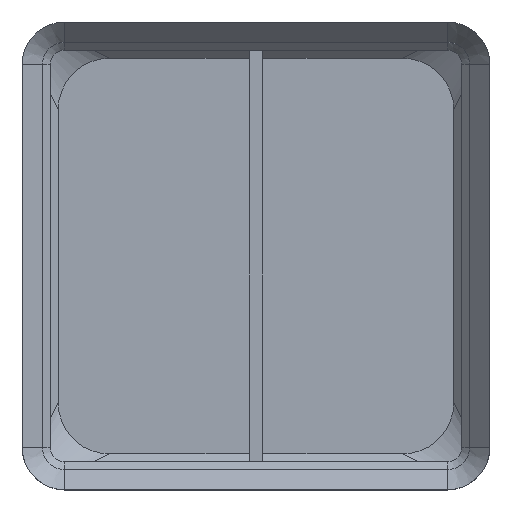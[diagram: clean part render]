
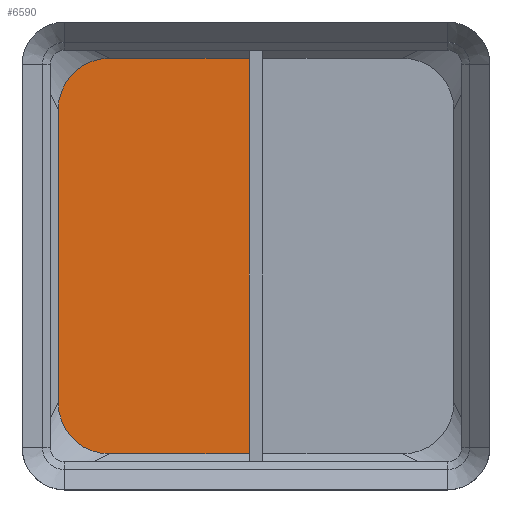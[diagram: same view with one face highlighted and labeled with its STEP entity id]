
A CAD part, top view. The second image highlights one B-rep face of the part: STEP entity #6590.
In plain terms, the highlighted planar face has unit normal (0, 0, 1).
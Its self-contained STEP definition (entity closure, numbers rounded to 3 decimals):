
#32 = PLANE('',#33);
#33 = AXIS2_PLACEMENT_3D('',#34,#35,#36);
#34 = CARTESIAN_POINT('',(-0.6,-19.75,5.65));
#35 = DIRECTION('',(1.,0.,-0.));
#36 = DIRECTION('',(0.,0.,1.));
#83 = VERTEX_POINT('',#84);
#84 = CARTESIAN_POINT('',(-0.6,-17.55,5.75));
#112 = B_SPLINE_SURFACE_WITH_KNOTS('',1,1,(
    (#113,#114)
    ,(#115,#116
    )),.UNSPECIFIED.,.F.,.F.,.F.,(2,2),(2,2),(-17.,17.),(0.,1.),
  .PIECEWISE_BEZIER_KNOTS.);
#113 = CARTESIAN_POINT('',(-13.,-17.55,5.75));
#114 = CARTESIAN_POINT('',(-17.,-19.55,7.75));
#115 = CARTESIAN_POINT('',(13.,-17.55,5.75));
#116 = CARTESIAN_POINT('',(17.,-19.55,7.75));
#131 = EDGE_CURVE('',#83,#132,#134,.T.);
#132 = VERTEX_POINT('',#133);
#133 = CARTESIAN_POINT('',(-0.6,17.55,5.75));
#134 = SURFACE_CURVE('',#135,(#139,#145),.PCURVE_S1.);
#135 = LINE('',#136,#137);
#136 = CARTESIAN_POINT('',(-0.6,-16.375,5.75));
#137 = VECTOR('',#138,1.);
#138 = DIRECTION('',(-0.,1.,0.));
#139 = PCURVE('',#32,#140);
#140 = DEFINITIONAL_REPRESENTATION('',(#141),#144);
#141 = B_SPLINE_CURVE_WITH_KNOTS('',1,(#142,#143),.UNSPECIFIED.,.F.,.F.,
  (2,2),(-1.175,33.925),.PIECEWISE_BEZIER_KNOTS.);
#142 = CARTESIAN_POINT('',(0.1,-2.2));
#143 = CARTESIAN_POINT('',(0.1,-37.3));
#144 = ( GEOMETRIC_REPRESENTATION_CONTEXT(2) 
PARAMETRIC_REPRESENTATION_CONTEXT() REPRESENTATION_CONTEXT('2D SPACE',''
  ) );
#145 = PCURVE('',#146,#151);
#146 = PLANE('',#147);
#147 = AXIS2_PLACEMENT_3D('',#148,#149,#150);
#148 = CARTESIAN_POINT('',(-13.,-13.,5.75));
#149 = DIRECTION('',(0.,0.,1.));
#150 = DIRECTION('',(1.,0.,0.));
#151 = DEFINITIONAL_REPRESENTATION('',(#152),#155);
#152 = B_SPLINE_CURVE_WITH_KNOTS('',1,(#153,#154),.UNSPECIFIED.,.F.,.F.,
  (2,2),(-1.175,33.925),.PIECEWISE_BEZIER_KNOTS.);
#153 = CARTESIAN_POINT('',(12.4,-4.55));
#154 = CARTESIAN_POINT('',(12.4,30.55));
#155 = ( GEOMETRIC_REPRESENTATION_CONTEXT(2) 
PARAMETRIC_REPRESENTATION_CONTEXT() REPRESENTATION_CONTEXT('2D SPACE',''
  ) );
#187 = B_SPLINE_SURFACE_WITH_KNOTS('',1,1,(
    (#188,#189)
    ,(#190,#191
    )),.UNSPECIFIED.,.F.,.F.,.F.,(2,2),(2,2),(-17.,17.),(0.,1.),
  .PIECEWISE_BEZIER_KNOTS.);
#188 = CARTESIAN_POINT('',(13.,17.55,5.75));
#189 = CARTESIAN_POINT('',(17.,19.55,7.75));
#190 = CARTESIAN_POINT('',(-13.,17.55,5.75));
#191 = CARTESIAN_POINT('',(-17.,19.55,7.75));
#6528 = EDGE_CURVE('',#6529,#132,#6531,.T.);
#6529 = VERTEX_POINT('',#6530);
#6530 = CARTESIAN_POINT('',(-13.,17.55,5.75));
#6531 = SURFACE_CURVE('',#6532,(#6536,#6542),.PCURVE_S1.);
#6532 = LINE('',#6533,#6534);
#6533 = CARTESIAN_POINT('',(0.,17.55,5.75));
#6534 = VECTOR('',#6535,1.);
#6535 = DIRECTION('',(1.,0.,0.));
#6536 = PCURVE('',#187,#6537);
#6537 = DEFINITIONAL_REPRESENTATION('',(#6538),#6541);
#6538 = B_SPLINE_CURVE_WITH_KNOTS('',1,(#6539,#6540),.UNSPECIFIED.,.F.,
  .F.,(2,2),(-13.,13.),.PIECEWISE_BEZIER_KNOTS.);
#6539 = CARTESIAN_POINT('',(17.,0.));
#6540 = CARTESIAN_POINT('',(-17.,0.));
#6541 = ( GEOMETRIC_REPRESENTATION_CONTEXT(2) 
PARAMETRIC_REPRESENTATION_CONTEXT() REPRESENTATION_CONTEXT('2D SPACE',''
  ) );
#6542 = PCURVE('',#146,#6543);
#6543 = DEFINITIONAL_REPRESENTATION('',(#6544),#6548);
#6544 = LINE('',#6545,#6546);
#6545 = CARTESIAN_POINT('',(13.,30.55));
#6546 = VECTOR('',#6547,1.);
#6547 = DIRECTION('',(1.,0.));
#6548 = ( GEOMETRIC_REPRESENTATION_CONTEXT(2) 
PARAMETRIC_REPRESENTATION_CONTEXT() REPRESENTATION_CONTEXT('2D SPACE',''
  ) );
#6563 = B_SPLINE_SURFACE_WITH_KNOTS('',8,1,(
    (#6564,#6565)
    ,(#6566,#6567)
    ,(#6568,#6569)
    ,(#6570,#6571)
    ,(#6572,#6573)
    ,(#6574,#6575)
    ,(#6576,#6577)
    ,(#6578,#6579)
    ,(#6580,#6581
    )),.UNSPECIFIED.,.F.,.F.,.F.,(9,9),(2,2),(1.571,
    3.142),(0.,1.),.PIECEWISE_BEZIER_KNOTS.);
#6564 = CARTESIAN_POINT('',(-13.,17.55,5.75));
#6565 = CARTESIAN_POINT('',(-17.,19.55,7.75));
#6566 = CARTESIAN_POINT('',(-13.893,17.55,5.75));
#6567 = CARTESIAN_POINT('',(-17.501,19.55,7.75));
#6568 = CARTESIAN_POINT('',(-14.787,17.35,5.75));
#6569 = CARTESIAN_POINT('',(-18.001,19.438,7.75));
#6570 = CARTESIAN_POINT('',(-15.628,16.949,5.75));
#6571 = CARTESIAN_POINT('',(-18.473,19.213,7.75));
#6572 = CARTESIAN_POINT('',(-16.364,16.364,5.75));
#6573 = CARTESIAN_POINT('',(-18.885,18.885,7.75));
#6574 = CARTESIAN_POINT('',(-16.949,15.628,5.75));
#6575 = CARTESIAN_POINT('',(-19.213,18.473,7.75));
#6576 = CARTESIAN_POINT('',(-17.35,14.787,5.75));
#6577 = CARTESIAN_POINT('',(-19.438,18.001,7.75));
#6578 = CARTESIAN_POINT('',(-17.55,13.893,5.75));
#6579 = CARTESIAN_POINT('',(-19.55,17.501,7.75));
#6580 = CARTESIAN_POINT('',(-17.55,13.,5.75));
#6581 = CARTESIAN_POINT('',(-19.55,17.,7.75));
#6590 = ADVANCED_FACE('',(#6591),#146,.T.);
#6591 = FACE_BOUND('',#6592,.T.);
#6592 = EDGE_LOOP('',(#6593,#6622,#6665,#6685,#6686,#6687));
#6593 = ORIENTED_EDGE('',*,*,#6594,.F.);
#6594 = EDGE_CURVE('',#6595,#6597,#6599,.T.);
#6595 = VERTEX_POINT('',#6596);
#6596 = CARTESIAN_POINT('',(-17.55,-13.,5.75));
#6597 = VERTEX_POINT('',#6598);
#6598 = CARTESIAN_POINT('',(-17.55,13.,5.75));
#6599 = SURFACE_CURVE('',#6600,(#6604,#6611),.PCURVE_S1.);
#6600 = LINE('',#6601,#6602);
#6601 = CARTESIAN_POINT('',(-17.55,0.,5.75));
#6602 = VECTOR('',#6603,1.);
#6603 = DIRECTION('',(0.,1.,0.));
#6604 = PCURVE('',#146,#6605);
#6605 = DEFINITIONAL_REPRESENTATION('',(#6606),#6610);
#6606 = LINE('',#6607,#6608);
#6607 = CARTESIAN_POINT('',(-4.55,13.));
#6608 = VECTOR('',#6609,1.);
#6609 = DIRECTION('',(0.,1.));
#6610 = ( GEOMETRIC_REPRESENTATION_CONTEXT(2) 
PARAMETRIC_REPRESENTATION_CONTEXT() REPRESENTATION_CONTEXT('2D SPACE',''
  ) );
#6611 = PCURVE('',#6612,#6617);
#6612 = B_SPLINE_SURFACE_WITH_KNOTS('',1,1,(
    (#6613,#6614)
    ,(#6615,#6616
    )),.UNSPECIFIED.,.F.,.F.,.F.,(2,2),(2,2),(-17.,17.),(0.,1.),
  .PIECEWISE_BEZIER_KNOTS.);
#6613 = CARTESIAN_POINT('',(-17.55,13.,5.75));
#6614 = CARTESIAN_POINT('',(-19.55,17.,7.75));
#6615 = CARTESIAN_POINT('',(-17.55,-13.,5.75));
#6616 = CARTESIAN_POINT('',(-19.55,-17.,7.75));
#6617 = DEFINITIONAL_REPRESENTATION('',(#6618),#6621);
#6618 = B_SPLINE_CURVE_WITH_KNOTS('',1,(#6619,#6620),.UNSPECIFIED.,.F.,
  .F.,(2,2),(-13.,13.),.PIECEWISE_BEZIER_KNOTS.);
#6619 = CARTESIAN_POINT('',(17.,0.));
#6620 = CARTESIAN_POINT('',(-17.,0.));
#6621 = ( GEOMETRIC_REPRESENTATION_CONTEXT(2) 
PARAMETRIC_REPRESENTATION_CONTEXT() REPRESENTATION_CONTEXT('2D SPACE',''
  ) );
#6622 = ORIENTED_EDGE('',*,*,#6623,.T.);
#6623 = EDGE_CURVE('',#6595,#6624,#6626,.T.);
#6624 = VERTEX_POINT('',#6625);
#6625 = CARTESIAN_POINT('',(-13.,-17.55,5.75));
#6626 = SURFACE_CURVE('',#6627,(#6632,#6639),.PCURVE_S1.);
#6627 = CIRCLE('',#6628,4.55);
#6628 = AXIS2_PLACEMENT_3D('',#6629,#6630,#6631);
#6629 = CARTESIAN_POINT('',(-13.,-13.,5.75));
#6630 = DIRECTION('',(0.,0.,1.));
#6631 = DIRECTION('',(1.,0.,0.));
#6632 = PCURVE('',#146,#6633);
#6633 = DEFINITIONAL_REPRESENTATION('',(#6634),#6638);
#6634 = CIRCLE('',#6635,4.55);
#6635 = AXIS2_PLACEMENT_2D('',#6636,#6637);
#6636 = CARTESIAN_POINT('',(0.,0.));
#6637 = DIRECTION('',(1.,0.));
#6638 = ( GEOMETRIC_REPRESENTATION_CONTEXT(2) 
PARAMETRIC_REPRESENTATION_CONTEXT() REPRESENTATION_CONTEXT('2D SPACE',''
  ) );
#6639 = PCURVE('',#6640,#6659);
#6640 = B_SPLINE_SURFACE_WITH_KNOTS('',8,1,(
    (#6641,#6642)
    ,(#6643,#6644)
    ,(#6645,#6646)
    ,(#6647,#6648)
    ,(#6649,#6650)
    ,(#6651,#6652)
    ,(#6653,#6654)
    ,(#6655,#6656)
    ,(#6657,#6658
    )),.UNSPECIFIED.,.F.,.F.,.F.,(9,9),(2,2),(3.142,
    4.712),(0.,1.),.PIECEWISE_BEZIER_KNOTS.);
#6641 = CARTESIAN_POINT('',(-17.55,-13.,5.75));
#6642 = CARTESIAN_POINT('',(-19.55,-17.,7.75));
#6643 = CARTESIAN_POINT('',(-17.55,-13.893,5.75));
#6644 = CARTESIAN_POINT('',(-19.55,-17.501,7.75));
#6645 = CARTESIAN_POINT('',(-17.35,-14.787,5.75));
#6646 = CARTESIAN_POINT('',(-19.438,-18.001,7.75));
#6647 = CARTESIAN_POINT('',(-16.949,-15.628,5.75));
#6648 = CARTESIAN_POINT('',(-19.213,-18.473,
    7.75));
#6649 = CARTESIAN_POINT('',(-16.364,-16.364,5.75));
#6650 = CARTESIAN_POINT('',(-18.885,-18.885,
    7.75));
#6651 = CARTESIAN_POINT('',(-15.628,-16.949,5.75));
#6652 = CARTESIAN_POINT('',(-18.473,-19.213,7.75));
#6653 = CARTESIAN_POINT('',(-14.787,-17.35,5.75));
#6654 = CARTESIAN_POINT('',(-18.001,-19.438,7.75));
#6655 = CARTESIAN_POINT('',(-13.893,-17.55,5.75));
#6656 = CARTESIAN_POINT('',(-17.501,-19.55,7.75));
#6657 = CARTESIAN_POINT('',(-13.,-17.55,5.75));
#6658 = CARTESIAN_POINT('',(-17.,-19.55,7.75));
#6659 = DEFINITIONAL_REPRESENTATION('',(#6660),#6664);
#6660 = LINE('',#6661,#6662);
#6661 = CARTESIAN_POINT('',(0.,0.));
#6662 = VECTOR('',#6663,1.);
#6663 = DIRECTION('',(1.,0.));
#6664 = ( GEOMETRIC_REPRESENTATION_CONTEXT(2) 
PARAMETRIC_REPRESENTATION_CONTEXT() REPRESENTATION_CONTEXT('2D SPACE',''
  ) );
#6665 = ORIENTED_EDGE('',*,*,#6666,.T.);
#6666 = EDGE_CURVE('',#6624,#83,#6667,.T.);
#6667 = SURFACE_CURVE('',#6668,(#6672,#6679),.PCURVE_S1.);
#6668 = LINE('',#6669,#6670);
#6669 = CARTESIAN_POINT('',(0.,-17.55,5.75));
#6670 = VECTOR('',#6671,1.);
#6671 = DIRECTION('',(1.,0.,0.));
#6672 = PCURVE('',#146,#6673);
#6673 = DEFINITIONAL_REPRESENTATION('',(#6674),#6678);
#6674 = LINE('',#6675,#6676);
#6675 = CARTESIAN_POINT('',(13.,-4.55));
#6676 = VECTOR('',#6677,1.);
#6677 = DIRECTION('',(1.,0.));
#6678 = ( GEOMETRIC_REPRESENTATION_CONTEXT(2) 
PARAMETRIC_REPRESENTATION_CONTEXT() REPRESENTATION_CONTEXT('2D SPACE',''
  ) );
#6679 = PCURVE('',#112,#6680);
#6680 = DEFINITIONAL_REPRESENTATION('',(#6681),#6684);
#6681 = B_SPLINE_CURVE_WITH_KNOTS('',1,(#6682,#6683),.UNSPECIFIED.,.F.,
  .F.,(2,2),(-13.,13.),.PIECEWISE_BEZIER_KNOTS.);
#6682 = CARTESIAN_POINT('',(-17.,0.));
#6683 = CARTESIAN_POINT('',(17.,0.));
#6684 = ( GEOMETRIC_REPRESENTATION_CONTEXT(2) 
PARAMETRIC_REPRESENTATION_CONTEXT() REPRESENTATION_CONTEXT('2D SPACE',''
  ) );
#6685 = ORIENTED_EDGE('',*,*,#131,.T.);
#6686 = ORIENTED_EDGE('',*,*,#6528,.F.);
#6687 = ORIENTED_EDGE('',*,*,#6688,.T.);
#6688 = EDGE_CURVE('',#6529,#6597,#6689,.T.);
#6689 = SURFACE_CURVE('',#6690,(#6695,#6702),.PCURVE_S1.);
#6690 = CIRCLE('',#6691,4.55);
#6691 = AXIS2_PLACEMENT_3D('',#6692,#6693,#6694);
#6692 = CARTESIAN_POINT('',(-13.,13.,5.75));
#6693 = DIRECTION('',(0.,0.,1.));
#6694 = DIRECTION('',(1.,0.,0.));
#6695 = PCURVE('',#146,#6696);
#6696 = DEFINITIONAL_REPRESENTATION('',(#6697),#6701);
#6697 = CIRCLE('',#6698,4.55);
#6698 = AXIS2_PLACEMENT_2D('',#6699,#6700);
#6699 = CARTESIAN_POINT('',(0.,26.));
#6700 = DIRECTION('',(1.,0.));
#6701 = ( GEOMETRIC_REPRESENTATION_CONTEXT(2) 
PARAMETRIC_REPRESENTATION_CONTEXT() REPRESENTATION_CONTEXT('2D SPACE',''
  ) );
#6702 = PCURVE('',#6563,#6703);
#6703 = DEFINITIONAL_REPRESENTATION('',(#6704),#6708);
#6704 = LINE('',#6705,#6706);
#6705 = CARTESIAN_POINT('',(0.,0.));
#6706 = VECTOR('',#6707,1.);
#6707 = DIRECTION('',(1.,0.));
#6708 = ( GEOMETRIC_REPRESENTATION_CONTEXT(2) 
PARAMETRIC_REPRESENTATION_CONTEXT() REPRESENTATION_CONTEXT('2D SPACE',''
  ) );
